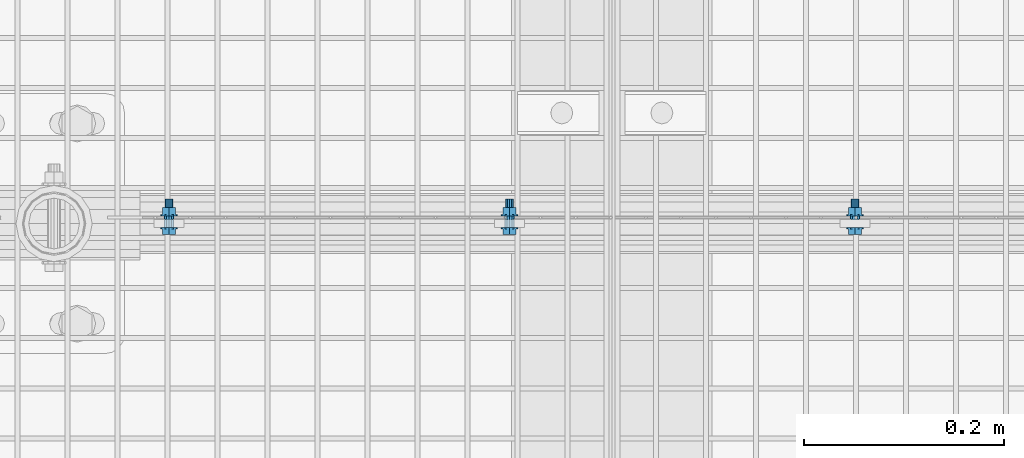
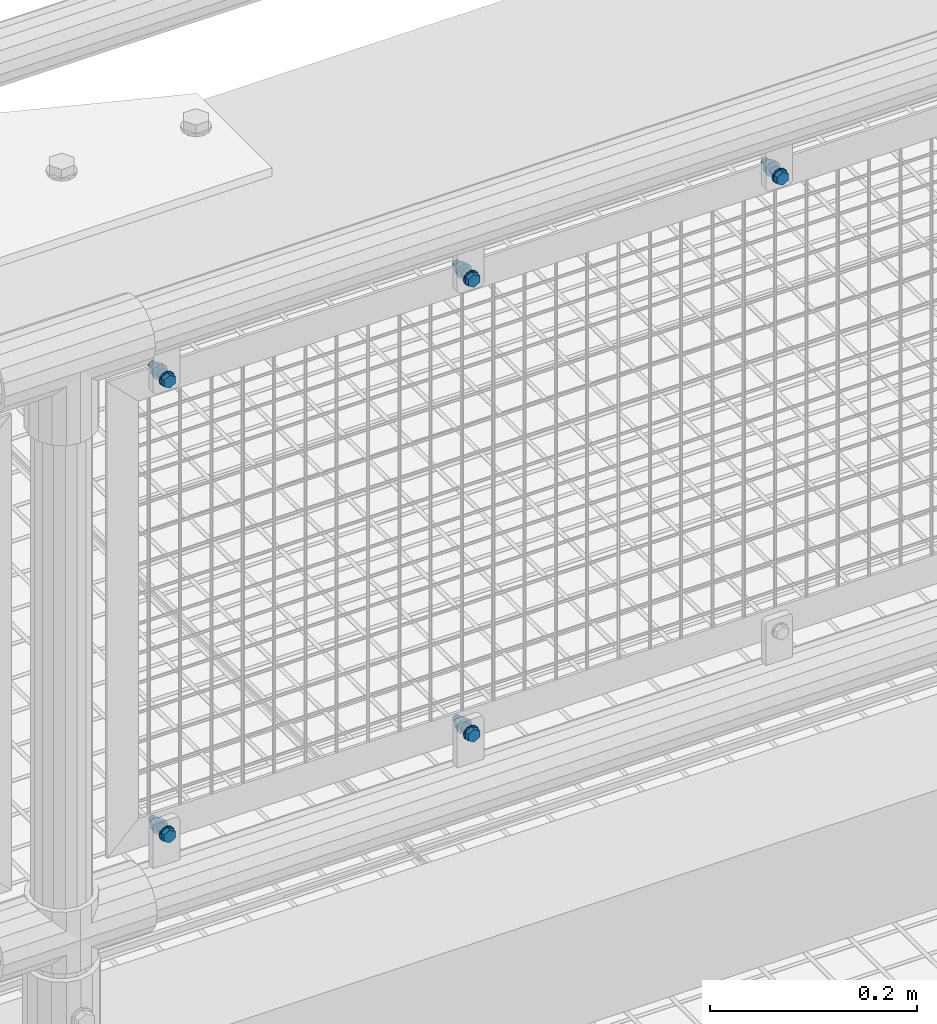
# One storey, part 86 of 1530: 5 mechanical fasteners.
"""IFC2X3 building model written with IfcOpenShell, lengths in millimetres."""

from ifc_helpers import new_model, si_unit, frame, origin_with_axes, place, context, subcontext, project, spatial, faceted_brep, source, transform, mapped, material, type_object, element, save


model = new_model("IFC2X3")

# Units and contexts
model_context = context("Model", 3, precision=1e-05, world=origin_with_axes())
body_context = subcontext(model_context, "Body", "Model", "MODEL_VIEW")
ifc_project = project(units=[si_unit("LENGTHUNIT", "METRE", prefix="MILLI"), si_unit("AREAUNIT", "SQUARE_METRE"), si_unit("VOLUMEUNIT", "CUBIC_METRE"), si_unit("MASSUNIT", "GRAM", prefix="KILO"), si_unit("TIMEUNIT", "SECOND"), si_unit("PLANEANGLEUNIT", "RADIAN"), si_unit("SOLIDANGLEUNIT", "STERADIAN"), si_unit("THERMODYNAMICTEMPERATUREUNIT", "DEGREE_CELSIUS"), si_unit("LUMINOUSINTENSITYUNIT", "LUMEN")], contexts=[model_context])

# Site, building, storey
site_placement = place(None, origin_with_axes())
site = spatial("IfcSite", under=ifc_project, at=site_placement, Name="Brattvåg", CompositionType="ELEMENT")
building_placement = place(site_placement, origin_with_axes())
building = spatial("IfcBuilding", under=site, at=building_placement, Name="Undefined", CompositionType="ELEMENT")
storey_placement = place(building_placement, origin_with_axes())
storey = spatial("IfcBuildingStorey", under=building, at=storey_placement, Name="Undefined", CompositionType="ELEMENT", Elevation=0.0)

# Mechanical fasteners
ifc_material = material(Name="8")
mechanical_fastener_type = type_object("IfcMechanicalFastenerType", Name="Bolt assembly")
shared_shape_1 = source(origin_with_axes(), body_context, "Body", "Brep", [
    faceted_brep([(7.50555349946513, -6.90000021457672, 0.0), (3.75277674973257, -6.90000021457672, 6.5), (-3.75277674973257, -6.90000021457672, 6.5), (-7.50555349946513, -6.90000021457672, 9.19165206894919e-16), (-3.75277674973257, -6.90000021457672, -6.5), (3.75277674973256, -6.90000021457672, -6.5), (3.75277674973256, -1.60000002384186, -6.5), (-3.75277674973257, -1.60000002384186, -6.5), (-7.50555349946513, -1.60000002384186, 9.19165206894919e-16), (-3.75277674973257, -1.60000002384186, 6.5), (3.75277674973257, -1.60000002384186, 6.5), (7.50555349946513, -1.60000002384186, 0.0), (4.0, -1.60000002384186, 0.0), (3.46410161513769, -1.60000002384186, 2.00000000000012), (1.99999999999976, -1.60000002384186, 3.46410161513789), (-4.14534392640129e-13, -1.60000002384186, 4.0), (-2.00000000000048, -1.60000002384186, 3.46410161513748), (-3.4641016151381, -1.60000002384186, 1.9999999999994), (-4.0, -1.60000002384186, -8.29068785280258e-13), (-3.46410161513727, -1.60000002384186, -2.00000000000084), (-1.99999999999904, -1.60000002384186, -3.46410161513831), (1.23916228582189e-12, -1.60000002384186, -4.0), (2.00000000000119, -1.60000002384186, -3.46410161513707), (3.46410161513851, -1.60000002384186, -1.99999999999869), (3.46410161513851, 28.3999999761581, -1.99999999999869), (2.00000000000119, 28.3999999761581, -3.46410161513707), (1.23916228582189e-12, 28.3999999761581, -4.0), (-1.99999999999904, 28.3999999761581, -3.46410161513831), (-3.46410161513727, 28.3999999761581, -2.00000000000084), (-4.0, 28.3999999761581, -8.29068785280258e-13), (-3.4641016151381, 28.3999999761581, 1.9999999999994), (-2.00000000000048, 28.3999999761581, 3.46410161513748), (-4.14534392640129e-13, 28.3999999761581, 4.0), (1.99999999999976, 28.3999999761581, 3.46410161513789), (3.46410161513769, 28.3999999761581, 2.00000000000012), (4.0, 28.3999999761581, 0.0), (8.5, -1.60000002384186, 0.0), (7.36121593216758, -1.60000002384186, 4.25000000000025), (4.24999999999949, -1.60000002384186, 7.36121593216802), (-8.80885584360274e-13, -1.60000002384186, 8.5), (-4.25000000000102, -1.60000002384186, 7.36121593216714), (-7.36121593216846, -1.60000002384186, 4.24999999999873), (-8.5, -1.60000002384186, -1.76177116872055e-12), (-7.3612159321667, -1.60000002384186, -4.25000000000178), (-4.24999999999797, -1.60000002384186, -7.3612159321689), (2.63321985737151e-12, -1.60000002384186, -8.5), (4.25000000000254, -1.60000002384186, -7.36121593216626), (7.36121593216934, -1.60000002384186, -4.24999999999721), (7.36121593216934, 0.0, -4.24999999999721), (4.25000000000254, 0.0, -7.36121593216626), (2.63321985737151e-12, 0.0, -8.5), (-4.24999999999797, 0.0, -7.3612159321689), (-7.3612159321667, 0.0, -4.25000000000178), (-8.5, 0.0, -1.76177116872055e-12), (-7.36121593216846, 0.0, 4.24999999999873), (-4.25000000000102, 0.0, 7.36121593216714), (-8.80885584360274e-13, 0.0, 8.5), (4.24999999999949, 0.0, 7.36121593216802), (7.36121593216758, 0.0, 4.25000000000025), (8.5, 0.0, 0.0), (8.5, 11.5015258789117, 0.0), (7.36121593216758, 11.5015258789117, 4.25000000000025), (4.24999999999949, 11.5015258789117, 7.36121593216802), (-8.80885584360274e-13, 11.5015258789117, 8.5), (-4.25000000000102, 11.5015258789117, 7.36121593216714), (-7.36121593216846, 11.5015258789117, 4.24999999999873), (-8.5, 11.5015258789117, -1.76177116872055e-12), (-7.3612159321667, 11.5015258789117, -4.25000000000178), (-4.24999999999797, 11.5015258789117, -7.3612159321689), (2.63321985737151e-12, 11.5015258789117, -8.5), (4.25000000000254, 11.5015258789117, -7.36121593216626), (7.36121593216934, 11.5015258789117, -4.24999999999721), (7.36121593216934, 13.1015259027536, -4.24999999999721), (4.25000000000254, 13.1015259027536, -7.36121593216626), (2.63321985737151e-12, 13.1015259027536, -8.5), (-4.24999999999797, 13.1015259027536, -7.3612159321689), (-7.3612159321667, 13.1015259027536, -4.25000000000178), (-8.5, 13.1015259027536, -1.76177116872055e-12), (-7.36121593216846, 13.1015259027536, 4.24999999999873), (-4.25000000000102, 13.1015259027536, 7.36121593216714), (-8.80885584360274e-13, 13.1015259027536, 8.5), (4.24999999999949, 13.1015259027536, 7.36121593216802), (7.36121593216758, 13.1015259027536, 4.25000000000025), (8.5, 13.1015259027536, 0.0), (7.50555349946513, 13.1015259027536, 0.0), (3.75277674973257, 13.1015259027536, 6.5), (-3.75277674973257, 13.1015259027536, 6.5), (-7.50555349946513, 13.1015259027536, 9.19165206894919e-16), (-3.75277674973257, 13.1015259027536, -6.5), (3.75277674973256, 13.1015259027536, -6.5), (3.75277674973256, 19.9015260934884, -6.5), (-3.75277674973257, 19.9015260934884, -6.5), (-7.50555349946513, 19.9015260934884, 9.19165206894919e-16), (-3.75277674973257, 19.9015260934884, 6.5), (3.75277674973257, 19.9015260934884, 6.5), (7.50555349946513, 19.9015260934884, 0.0)], [[[0, 1, 2, 3, 4, 5]], [[6, 7, 8, 9, 10, 11]], [[0, 11, 10, 1]], [[1, 10, 9, 2]], [[2, 9, 8, 3]], [[3, 8, 7, 4]], [[4, 7, 6, 5]], [[5, 6, 11, 0]], [[12, 13, 14, 15, 16, 17, 18, 19, 20, 21, 22, 23]], [[24, 25, 26, 27, 28, 29, 30, 31, 32, 33, 34, 35]], [[12, 35, 34, 13]], [[13, 34, 33, 14]], [[14, 33, 32, 15]], [[15, 32, 31, 16]], [[16, 31, 30, 17]], [[17, 30, 29, 18]], [[18, 29, 28, 19]], [[19, 28, 27, 20]], [[20, 27, 26, 21]], [[21, 26, 25, 22]], [[22, 25, 24, 23]], [[23, 24, 35, 12]], [[36, 37, 38, 39, 40, 41, 42, 43, 44, 45, 46, 47]], [[48, 49, 50, 51, 52, 53, 54, 55, 56, 57, 58, 59]], [[36, 59, 58, 37]], [[37, 58, 57, 38]], [[38, 57, 56, 39]], [[39, 56, 55, 40]], [[40, 55, 54, 41]], [[41, 54, 53, 42]], [[42, 53, 52, 43]], [[43, 52, 51, 44]], [[44, 51, 50, 45]], [[45, 50, 49, 46]], [[46, 49, 48, 47]], [[47, 48, 59, 36]], [[60, 61, 62, 63, 64, 65, 66, 67, 68, 69, 70, 71]], [[72, 73, 74, 75, 76, 77, 78, 79, 80, 81, 82, 83]], [[60, 83, 82, 61]], [[61, 82, 81, 62]], [[62, 81, 80, 63]], [[63, 80, 79, 64]], [[64, 79, 78, 65]], [[65, 78, 77, 66]], [[66, 77, 76, 67]], [[67, 76, 75, 68]], [[68, 75, 74, 69]], [[69, 74, 73, 70]], [[70, 73, 72, 71]], [[71, 72, 83, 60]], [[84, 85, 86, 87, 88, 89]], [[90, 91, 92, 93, 94, 95]], [[84, 95, 94, 85]], [[85, 94, 93, 86]], [[86, 93, 92, 87]], [[87, 92, 91, 88]], [[88, 91, 90, 89]], [[89, 90, 95, 84]]]),
    faceted_brep([(5.0, 0.1, 0.0), (4.33012701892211, 0.1, 2.50000000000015), (2.4999999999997, 0.1, 4.33012701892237), (-5.18167990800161e-13, 0.1, 5.0), (-2.5000000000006, 0.1, 4.33012701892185), (-4.33012701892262, 0.1, 2.49999999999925), (-5.0, 0.1, -1.03633598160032e-12), (-4.33012701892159, 0.1, -2.50000000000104), (-2.49999999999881, 0.1, -4.33012701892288), (1.54895285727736e-12, 0.1, -5.0), (2.50000000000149, 0.1, -4.33012701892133), (4.33012701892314, 0.1, -2.49999999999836), (4.33012701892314, 8.1, -2.49999999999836), (2.50000000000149, 8.1, -4.33012701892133), (1.54895285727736e-12, 8.1, -5.0), (-2.49999999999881, 8.1, -4.33012701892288), (-4.33012701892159, 8.1, -2.50000000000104), (-5.0, 8.1, -1.03633598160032e-12), (-4.33012701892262, 8.1, 2.49999999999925), (-2.5000000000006, 8.1, 4.33012701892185), (-5.18167990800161e-13, 8.1, 5.0), (2.4999999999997, 8.1, 4.33012701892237), (4.33012701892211, 8.1, 2.50000000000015), (5.0, 8.1, 0.0), (5.0, 8.40152587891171, 0.0), (4.33012701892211, 8.40152587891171, 2.50000000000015), (2.4999999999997, 8.40152587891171, 4.33012701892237), (-5.18167990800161e-13, 8.40152587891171, 5.0), (-2.5000000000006, 8.40152587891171, 4.33012701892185), (-4.33012701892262, 8.40152587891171, 2.49999999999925), (-5.0, 8.40152587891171, -1.03633598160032e-12), (-4.33012701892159, 8.40152587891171, -2.50000000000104), (-2.49999999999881, 8.40152587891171, -4.33012701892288), (1.54895285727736e-12, 8.40152587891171, -5.0), (2.50000000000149, 8.40152587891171, -4.33012701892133), (4.33012701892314, 8.40152587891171, -2.49999999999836), (4.33012701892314, 11.5015258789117, -2.49999999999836), (2.50000000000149, 11.5015258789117, -4.33012701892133), (1.54895285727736e-12, 11.5015258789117, -5.0), (-2.49999999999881, 11.5015258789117, -4.33012701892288), (-4.33012701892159, 11.5015258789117, -2.50000000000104), (-5.0, 11.5015258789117, -1.03633598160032e-12), (-4.33012701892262, 11.5015258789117, 2.49999999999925), (-2.5000000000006, 11.5015258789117, 4.33012701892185), (-5.18167990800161e-13, 11.5015258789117, 5.0), (2.4999999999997, 11.5015258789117, 4.33012701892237), (4.33012701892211, 11.5015258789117, 2.50000000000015), (5.0, 11.5015258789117, 0.0)], [[[0, 1, 2, 3, 4, 5, 6, 7, 8, 9, 10, 11]], [[12, 13, 14, 15, 16, 17, 18, 19, 20, 21, 22, 23]], [[0, 23, 22, 1]], [[1, 22, 21, 2]], [[2, 21, 20, 3]], [[3, 20, 19, 4]], [[4, 19, 18, 5]], [[5, 18, 17, 6]], [[6, 17, 16, 7]], [[7, 16, 15, 8]], [[8, 15, 14, 9]], [[9, 14, 13, 10]], [[10, 13, 12, 11]], [[11, 12, 23, 0]], [[24, 25, 26, 27, 28, 29, 30, 31, 32, 33, 34, 35]], [[36, 37, 38, 39, 40, 41, 42, 43, 44, 45, 46, 47]], [[24, 47, 46, 25]], [[25, 46, 45, 26]], [[26, 45, 44, 27]], [[27, 44, 43, 28]], [[28, 43, 42, 29]], [[29, 42, 41, 30]], [[30, 41, 40, 31]], [[31, 40, 39, 32]], [[32, 39, 38, 33]], [[33, 38, 37, 34]], [[34, 37, 36, 35]], [[35, 36, 47, 24]]]),
])
for number, where, z_axis, x_axis, name in (
    (1, (7135.85095214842, 7660.49950027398, 889.680069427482), (-1.0, 1.99999855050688e-09, 0.0), (0.0, 0.0, 1.0), "Bolt assembly"),
    (2, (7475.85110473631, 7660.49950027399, 889.680069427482), (-1.0, 1.99999855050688e-09, 0.0), (0.0, 0.0, 1.0), "Bolt assembly"),
    (3, (7820.8504180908, 7660.49950027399, 889.680069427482), (-1.0, 1.99999855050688e-09, 0.0), (0.0, 0.0, 1.0), "Bolt assembly"),
):
    element("IfcMechanicalFastener", number, at=place(storey_placement, frame(where, z_axis=z_axis, x_axis=x_axis)), inside=storey, type_object=mechanical_fastener_type, material=ifc_material, Name=name, NominalDiameter=8.0, NominalLength=30.0, context=body_context, shape_type="MappedRepresentation", body=[
        mapped(shared_shape_1, transform((0.0, 0.0, 0.0))),
    ])
shared_shape_2 = source(origin_with_axes(), body_context, "Body", "Brep", [
    faceted_brep([(7.50555349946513, -6.899000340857, 0.0), (3.75277674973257, -6.899000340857, 6.5), (-3.75277674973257, -6.899000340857, 6.5), (-7.50555349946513, -6.899000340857, 9.19165206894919e-16), (-3.75277674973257, -6.899000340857, -6.5), (3.75277674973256, -6.899000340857, -6.5), (3.75277674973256, -1.59900015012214, -6.5), (-3.75277674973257, -1.59900015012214, -6.5), (-7.50555349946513, -1.59900015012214, 9.19165206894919e-16), (-3.75277674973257, -1.59900015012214, 6.5), (3.75277674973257, -1.59900015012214, 6.5), (7.50555349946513, -1.59900015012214, 0.0), (4.0, -1.59900015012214, 0.0), (3.46410161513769, -1.59900015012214, 2.00000000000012), (1.99999999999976, -1.59900015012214, 3.46410161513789), (-4.14534392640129e-13, -1.59900015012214, 4.0), (-2.00000000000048, -1.59900015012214, 3.46410161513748), (-3.4641016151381, -1.59900015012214, 1.9999999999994), (-4.0, -1.59900015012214, -8.29068785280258e-13), (-3.46410161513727, -1.59900015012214, -2.00000000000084), (-1.99999999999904, -1.59900015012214, -3.46410161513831), (1.23916228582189e-12, -1.59900015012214, -4.0), (2.00000000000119, -1.59900015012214, -3.46410161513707), (3.46410161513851, -1.59900015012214, -1.99999999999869), (3.46410161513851, 28.4009998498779, -1.99999999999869), (2.00000000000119, 28.4009998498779, -3.46410161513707), (1.23916228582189e-12, 28.4009998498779, -4.0), (-1.99999999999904, 28.4009998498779, -3.46410161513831), (-3.46410161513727, 28.4009998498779, -2.00000000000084), (-4.0, 28.4009998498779, -8.29068785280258e-13), (-3.4641016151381, 28.4009998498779, 1.9999999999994), (-2.00000000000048, 28.4009998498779, 3.46410161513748), (-4.14534392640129e-13, 28.4009998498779, 4.0), (1.99999999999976, 28.4009998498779, 3.46410161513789), (3.46410161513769, 28.4009998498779, 2.00000000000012), (4.0, 28.4009998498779, 0.0), (8.5, -1.59900015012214, 0.0), (7.36121593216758, -1.59900015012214, 4.25000000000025), (4.24999999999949, -1.59900015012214, 7.36121593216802), (-8.80885584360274e-13, -1.59900015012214, 8.5), (-4.25000000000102, -1.59900015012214, 7.36121593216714), (-7.36121593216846, -1.59900015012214, 4.24999999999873), (-8.5, -1.59900015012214, -1.76177116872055e-12), (-7.3612159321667, -1.59900015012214, -4.25000000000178), (-4.24999999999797, -1.59900015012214, -7.3612159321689), (2.63321985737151e-12, -1.59900015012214, -8.5), (4.25000000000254, -1.59900015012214, -7.36121593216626), (7.36121593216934, -1.59900015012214, -4.24999999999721), (7.36121593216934, 0.000999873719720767, -4.24999999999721), (4.25000000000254, 0.000999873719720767, -7.36121593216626), (2.63321985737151e-12, 0.000999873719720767, -8.5), (-4.24999999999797, 0.000999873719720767, -7.3612159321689), (-7.3612159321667, 0.000999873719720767, -4.25000000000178), (-8.5, 0.000999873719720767, -1.76177116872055e-12), (-7.36121593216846, 0.000999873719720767, 4.24999999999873), (-4.25000000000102, 0.000999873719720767, 7.36121593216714), (-8.80885584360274e-13, 0.000999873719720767, 8.5), (4.24999999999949, 0.000999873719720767, 7.36121593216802), (7.36121593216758, 0.000999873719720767, 4.25000000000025), (8.5, 0.000999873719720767, 0.0), (8.5, 11.5044159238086, 0.0), (7.36121593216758, 11.5044159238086, 4.25000000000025), (4.24999999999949, 11.5044159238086, 7.36121593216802), (-8.80885584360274e-13, 11.5044159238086, 8.5), (-4.25000000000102, 11.5044159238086, 7.36121593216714), (-7.36121593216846, 11.5044159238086, 4.24999999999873), (-8.5, 11.5044159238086, -1.76177116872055e-12), (-7.3612159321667, 11.5044159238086, -4.25000000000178), (-4.24999999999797, 11.5044159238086, -7.3612159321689), (2.63321985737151e-12, 11.5044159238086, -8.5), (4.25000000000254, 11.5044159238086, -7.36121593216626), (7.36121593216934, 11.5044159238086, -4.24999999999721), (7.36121593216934, 13.1044159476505, -4.24999999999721), (4.25000000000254, 13.1044159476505, -7.36121593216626), (2.63321985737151e-12, 13.1044159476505, -8.5), (-4.24999999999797, 13.1044159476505, -7.3612159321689), (-7.3612159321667, 13.1044159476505, -4.25000000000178), (-8.5, 13.1044159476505, -1.76177116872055e-12), (-7.36121593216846, 13.1044159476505, 4.24999999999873), (-4.25000000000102, 13.1044159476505, 7.36121593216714), (-8.80885584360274e-13, 13.1044159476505, 8.5), (4.24999999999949, 13.1044159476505, 7.36121593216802), (7.36121593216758, 13.1044159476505, 4.25000000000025), (8.5, 13.1044159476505, 0.0), (7.50555349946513, 13.1044159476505, 0.0), (3.75277674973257, 13.1044159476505, 6.5), (-3.75277674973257, 13.1044159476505, 6.5), (-7.50555349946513, 13.1044159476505, 9.19165206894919e-16), (-3.75277674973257, 13.1044159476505, -6.5), (3.75277674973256, 13.1044159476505, -6.5), (3.75277674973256, 19.9044161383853, -6.5), (-3.75277674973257, 19.9044161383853, -6.5), (-7.50555349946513, 19.9044161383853, 9.19165206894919e-16), (-3.75277674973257, 19.9044161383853, 6.5), (3.75277674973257, 19.9044161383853, 6.5), (7.50555349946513, 19.9044161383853, 0.0)], [[[0, 1, 2, 3, 4, 5]], [[6, 7, 8, 9, 10, 11]], [[0, 11, 10, 1]], [[1, 10, 9, 2]], [[2, 9, 8, 3]], [[3, 8, 7, 4]], [[4, 7, 6, 5]], [[5, 6, 11, 0]], [[12, 13, 14, 15, 16, 17, 18, 19, 20, 21, 22, 23]], [[24, 25, 26, 27, 28, 29, 30, 31, 32, 33, 34, 35]], [[12, 35, 34, 13]], [[13, 34, 33, 14]], [[14, 33, 32, 15]], [[15, 32, 31, 16]], [[16, 31, 30, 17]], [[17, 30, 29, 18]], [[18, 29, 28, 19]], [[19, 28, 27, 20]], [[20, 27, 26, 21]], [[21, 26, 25, 22]], [[22, 25, 24, 23]], [[23, 24, 35, 12]], [[36, 37, 38, 39, 40, 41, 42, 43, 44, 45, 46, 47]], [[48, 49, 50, 51, 52, 53, 54, 55, 56, 57, 58, 59]], [[36, 59, 58, 37]], [[37, 58, 57, 38]], [[38, 57, 56, 39]], [[39, 56, 55, 40]], [[40, 55, 54, 41]], [[41, 54, 53, 42]], [[42, 53, 52, 43]], [[43, 52, 51, 44]], [[44, 51, 50, 45]], [[45, 50, 49, 46]], [[46, 49, 48, 47]], [[47, 48, 59, 36]], [[60, 61, 62, 63, 64, 65, 66, 67, 68, 69, 70, 71]], [[72, 73, 74, 75, 76, 77, 78, 79, 80, 81, 82, 83]], [[60, 83, 82, 61]], [[61, 82, 81, 62]], [[62, 81, 80, 63]], [[63, 80, 79, 64]], [[64, 79, 78, 65]], [[65, 78, 77, 66]], [[66, 77, 76, 67]], [[67, 76, 75, 68]], [[68, 75, 74, 69]], [[69, 74, 73, 70]], [[70, 73, 72, 71]], [[71, 72, 83, 60]], [[84, 85, 86, 87, 88, 89]], [[90, 91, 92, 93, 94, 95]], [[84, 95, 94, 85]], [[85, 94, 93, 86]], [[86, 93, 92, 87]], [[87, 92, 91, 88]], [[88, 91, 90, 89]], [[89, 90, 95, 84]]]),
    faceted_brep([(5.0, 0.100999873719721, 0.0), (4.33012701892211, 0.100999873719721, 2.50000000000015), (2.4999999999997, 0.100999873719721, 4.33012701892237), (-5.18167990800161e-13, 0.100999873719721, 5.0), (-2.5000000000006, 0.100999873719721, 4.33012701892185), (-4.33012701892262, 0.100999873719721, 2.49999999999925), (-5.0, 0.100999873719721, -1.03633598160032e-12), (-4.33012701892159, 0.100999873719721, -2.50000000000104), (-2.49999999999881, 0.100999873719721, -4.33012701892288), (1.54895285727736e-12, 0.100999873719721, -5.0), (2.50000000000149, 0.100999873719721, -4.33012701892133), (4.33012701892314, 0.100999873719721, -2.49999999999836), (4.33012701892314, 8.10099988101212, -2.49999999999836), (2.50000000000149, 8.10099988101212, -4.33012701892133), (1.54895285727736e-12, 8.10099988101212, -5.0), (-2.49999999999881, 8.10099988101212, -4.33012701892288), (-4.33012701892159, 8.10099988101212, -2.50000000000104), (-5.0, 8.10099988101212, -1.03633598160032e-12), (-4.33012701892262, 8.10099988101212, 2.49999999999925), (-2.5000000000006, 8.10099988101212, 4.33012701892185), (-5.18167990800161e-13, 8.10099988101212, 5.0), (2.4999999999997, 8.10099988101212, 4.33012701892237), (4.33012701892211, 8.10099988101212, 2.50000000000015), (5.0, 8.10099988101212, 0.0), (5.0, 8.40441592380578, 0.0), (4.33012701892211, 8.40441592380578, 2.50000000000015), (2.4999999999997, 8.40441592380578, 4.33012701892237), (-5.18167990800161e-13, 8.40441592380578, 5.0), (-2.5000000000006, 8.40441592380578, 4.33012701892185), (-4.33012701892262, 8.40441592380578, 2.49999999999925), (-5.0, 8.40441592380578, -1.03633598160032e-12), (-4.33012701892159, 8.40441592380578, -2.50000000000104), (-2.49999999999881, 8.40441592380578, -4.33012701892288), (1.54895285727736e-12, 8.40441592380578, -5.0), (2.50000000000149, 8.40441592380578, -4.33012701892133), (4.33012701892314, 8.40441592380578, -2.49999999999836), (4.33012701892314, 11.5044159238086, -2.49999999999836), (2.50000000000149, 11.5044159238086, -4.33012701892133), (1.54895285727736e-12, 11.5044159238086, -5.0), (-2.49999999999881, 11.5044159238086, -4.33012701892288), (-4.33012701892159, 11.5044159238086, -2.50000000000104), (-5.0, 11.5044159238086, -1.03633598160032e-12), (-4.33012701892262, 11.5044159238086, 2.49999999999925), (-2.5000000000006, 11.5044159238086, 4.33012701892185), (-5.18167990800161e-13, 11.5044159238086, 5.0), (2.4999999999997, 11.5044159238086, 4.33012701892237), (4.33012701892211, 11.5044159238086, 2.50000000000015), (5.0, 11.5044159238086, 0.0)], [[[0, 1, 2, 3, 4, 5, 6, 7, 8, 9, 10, 11]], [[12, 13, 14, 15, 16, 17, 18, 19, 20, 21, 22, 23]], [[0, 23, 22, 1]], [[1, 22, 21, 2]], [[2, 21, 20, 3]], [[3, 20, 19, 4]], [[4, 19, 18, 5]], [[5, 18, 17, 6]], [[6, 17, 16, 7]], [[7, 16, 15, 8]], [[8, 15, 14, 9]], [[9, 14, 13, 10]], [[10, 13, 12, 11]], [[11, 12, 23, 0]], [[24, 25, 26, 27, 28, 29, 30, 31, 32, 33, 34, 35]], [[36, 37, 38, 39, 40, 41, 42, 43, 44, 45, 46, 47]], [[24, 47, 46, 25]], [[25, 46, 45, 26]], [[26, 45, 44, 27]], [[27, 44, 43, 28]], [[28, 43, 42, 29]], [[29, 42, 41, 30]], [[30, 41, 40, 31]], [[31, 40, 39, 32]], [[32, 39, 38, 33]], [[33, 38, 37, 34]], [[34, 37, 36, 35]], [[35, 36, 47, 24]]]),
])
mechanical_fastener_1_placement = place(storey_placement, frame((7135.85060882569, 7660.49843978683, 352.299672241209), z_axis=(-1.0, 1.99999855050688e-09, 0.0), x_axis=(0.0, 0.0, 1.0)))
element("IfcMechanicalFastener", 4, at=mechanical_fastener_1_placement, inside=storey, type_object=mechanical_fastener_type, material=ifc_material, Name="Bolt assembly", NominalDiameter=8.0, NominalLength=30.0, context=body_context, shape_type="MappedRepresentation", body=[
    mapped(shared_shape_2, transform((0.0, 0.0, 0.0))),
])
shared_shape_3 = source(origin_with_axes(), body_context, "Body", "Brep", [
    faceted_brep([(7.50555349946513, -6.899000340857, 0.0), (3.75277674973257, -6.899000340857, 6.5), (-3.75277674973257, -6.899000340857, 6.5), (-7.50555349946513, -6.899000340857, 9.19165206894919e-16), (-3.75277674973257, -6.899000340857, -6.5), (3.75277674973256, -6.899000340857, -6.5), (3.75277674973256, -1.59900015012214, -6.5), (-3.75277674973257, -1.59900015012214, -6.5), (-7.50555349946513, -1.59900015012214, 9.19165206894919e-16), (-3.75277674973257, -1.59900015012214, 6.5), (3.75277674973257, -1.59900015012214, 6.5), (7.50555349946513, -1.59900015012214, 0.0), (4.0, -1.59900015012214, 0.0), (3.46410161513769, -1.59900015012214, 2.00000000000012), (1.99999999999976, -1.59900015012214, 3.46410161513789), (-4.14534392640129e-13, -1.59900015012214, 4.0), (-2.00000000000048, -1.59900015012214, 3.46410161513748), (-3.4641016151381, -1.59900015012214, 1.9999999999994), (-4.0, -1.59900015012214, -8.29068785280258e-13), (-3.46410161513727, -1.59900015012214, -2.00000000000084), (-1.99999999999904, -1.59900015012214, -3.46410161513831), (1.23916228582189e-12, -1.59900015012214, -4.0), (2.00000000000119, -1.59900015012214, -3.46410161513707), (3.46410161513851, -1.59900015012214, -1.99999999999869), (3.46410161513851, 28.4009998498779, -1.99999999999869), (2.00000000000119, 28.4009998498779, -3.46410161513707), (1.23916228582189e-12, 28.4009998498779, -4.0), (-1.99999999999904, 28.4009998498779, -3.46410161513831), (-3.46410161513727, 28.4009998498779, -2.00000000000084), (-4.0, 28.4009998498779, -8.29068785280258e-13), (-3.4641016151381, 28.4009998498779, 1.9999999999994), (-2.00000000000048, 28.4009998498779, 3.46410161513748), (-4.14534392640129e-13, 28.4009998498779, 4.0), (1.99999999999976, 28.4009998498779, 3.46410161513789), (3.46410161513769, 28.4009998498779, 2.00000000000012), (4.0, 28.4009998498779, 0.0), (8.5, -1.59900015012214, 0.0), (7.36121593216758, -1.59900015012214, 4.25000000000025), (4.24999999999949, -1.59900015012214, 7.36121593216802), (-8.80885584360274e-13, -1.59900015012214, 8.5), (-4.25000000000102, -1.59900015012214, 7.36121593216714), (-7.36121593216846, -1.59900015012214, 4.24999999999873), (-8.5, -1.59900015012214, -1.76177116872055e-12), (-7.3612159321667, -1.59900015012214, -4.25000000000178), (-4.24999999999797, -1.59900015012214, -7.3612159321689), (2.63321985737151e-12, -1.59900015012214, -8.5), (4.25000000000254, -1.59900015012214, -7.36121593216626), (7.36121593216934, -1.59900015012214, -4.24999999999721), (7.36121593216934, 0.000999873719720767, -4.24999999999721), (4.25000000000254, 0.000999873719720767, -7.36121593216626), (2.63321985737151e-12, 0.000999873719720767, -8.5), (-4.24999999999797, 0.000999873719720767, -7.3612159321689), (-7.3612159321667, 0.000999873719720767, -4.25000000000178), (-8.5, 0.000999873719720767, -1.76177116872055e-12), (-7.36121593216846, 0.000999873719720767, 4.24999999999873), (-4.25000000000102, 0.000999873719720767, 7.36121593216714), (-8.80885584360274e-13, 0.000999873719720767, 8.5), (4.24999999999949, 0.000999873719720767, 7.36121593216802), (7.36121593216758, 0.000999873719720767, 4.25000000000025), (8.5, 0.000999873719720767, 0.0), (8.5, 11.5039814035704, 0.0), (7.36121593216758, 11.5039814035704, 4.25000000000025), (4.24999999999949, 11.5039814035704, 7.36121593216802), (-8.80885584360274e-13, 11.5039814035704, 8.5), (-4.25000000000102, 11.5039814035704, 7.36121593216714), (-7.36121593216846, 11.5039814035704, 4.24999999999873), (-8.5, 11.5039814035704, -1.76177116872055e-12), (-7.3612159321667, 11.5039814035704, -4.25000000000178), (-4.24999999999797, 11.5039814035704, -7.3612159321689), (2.63321985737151e-12, 11.5039814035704, -8.5), (4.25000000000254, 11.5039814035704, -7.36121593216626), (7.36121593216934, 11.5039814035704, -4.24999999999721), (7.36121593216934, 13.1039814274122, -4.24999999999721), (4.25000000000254, 13.1039814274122, -7.36121593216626), (2.63321985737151e-12, 13.1039814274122, -8.5), (-4.24999999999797, 13.1039814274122, -7.3612159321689), (-7.3612159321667, 13.1039814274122, -4.25000000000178), (-8.5, 13.1039814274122, -1.76177116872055e-12), (-7.36121593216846, 13.1039814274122, 4.24999999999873), (-4.25000000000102, 13.1039814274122, 7.36121593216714), (-8.80885584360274e-13, 13.1039814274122, 8.5), (4.24999999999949, 13.1039814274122, 7.36121593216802), (7.36121593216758, 13.1039814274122, 4.25000000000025), (8.5, 13.1039814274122, 0.0), (7.50555349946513, 13.1039814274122, 0.0), (3.75277674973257, 13.1039814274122, 6.5), (-3.75277674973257, 13.1039814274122, 6.5), (-7.50555349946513, 13.1039814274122, 9.19165206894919e-16), (-3.75277674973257, 13.1039814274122, -6.5), (3.75277674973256, 13.1039814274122, -6.5), (3.75277674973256, 19.9039816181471, -6.5), (-3.75277674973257, 19.9039816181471, -6.5), (-7.50555349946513, 19.9039816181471, 9.19165206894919e-16), (-3.75277674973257, 19.9039816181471, 6.5), (3.75277674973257, 19.9039816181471, 6.5), (7.50555349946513, 19.9039816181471, 0.0)], [[[0, 1, 2, 3, 4, 5]], [[6, 7, 8, 9, 10, 11]], [[0, 11, 10, 1]], [[1, 10, 9, 2]], [[2, 9, 8, 3]], [[3, 8, 7, 4]], [[4, 7, 6, 5]], [[5, 6, 11, 0]], [[12, 13, 14, 15, 16, 17, 18, 19, 20, 21, 22, 23]], [[24, 25, 26, 27, 28, 29, 30, 31, 32, 33, 34, 35]], [[12, 35, 34, 13]], [[13, 34, 33, 14]], [[14, 33, 32, 15]], [[15, 32, 31, 16]], [[16, 31, 30, 17]], [[17, 30, 29, 18]], [[18, 29, 28, 19]], [[19, 28, 27, 20]], [[20, 27, 26, 21]], [[21, 26, 25, 22]], [[22, 25, 24, 23]], [[23, 24, 35, 12]], [[36, 37, 38, 39, 40, 41, 42, 43, 44, 45, 46, 47]], [[48, 49, 50, 51, 52, 53, 54, 55, 56, 57, 58, 59]], [[36, 59, 58, 37]], [[37, 58, 57, 38]], [[38, 57, 56, 39]], [[39, 56, 55, 40]], [[40, 55, 54, 41]], [[41, 54, 53, 42]], [[42, 53, 52, 43]], [[43, 52, 51, 44]], [[44, 51, 50, 45]], [[45, 50, 49, 46]], [[46, 49, 48, 47]], [[47, 48, 59, 36]], [[60, 61, 62, 63, 64, 65, 66, 67, 68, 69, 70, 71]], [[72, 73, 74, 75, 76, 77, 78, 79, 80, 81, 82, 83]], [[60, 83, 82, 61]], [[61, 82, 81, 62]], [[62, 81, 80, 63]], [[63, 80, 79, 64]], [[64, 79, 78, 65]], [[65, 78, 77, 66]], [[66, 77, 76, 67]], [[67, 76, 75, 68]], [[68, 75, 74, 69]], [[69, 74, 73, 70]], [[70, 73, 72, 71]], [[71, 72, 83, 60]], [[84, 85, 86, 87, 88, 89]], [[90, 91, 92, 93, 94, 95]], [[84, 95, 94, 85]], [[85, 94, 93, 86]], [[86, 93, 92, 87]], [[87, 92, 91, 88]], [[88, 91, 90, 89]], [[89, 90, 95, 84]]]),
    faceted_brep([(5.0, 0.100999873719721, 0.0), (4.33012701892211, 0.100999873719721, 2.50000000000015), (2.4999999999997, 0.100999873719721, 4.33012701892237), (-5.18167990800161e-13, 0.100999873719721, 5.0), (-2.5000000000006, 0.100999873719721, 4.33012701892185), (-4.33012701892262, 0.100999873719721, 2.49999999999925), (-5.0, 0.100999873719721, -1.03633598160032e-12), (-4.33012701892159, 0.100999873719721, -2.50000000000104), (-2.49999999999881, 0.100999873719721, -4.33012701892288), (1.54895285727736e-12, 0.100999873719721, -5.0), (2.50000000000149, 0.100999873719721, -4.33012701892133), (4.33012701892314, 0.100999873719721, -2.49999999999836), (4.33012701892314, 8.10099988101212, -2.49999999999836), (2.50000000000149, 8.10099988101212, -4.33012701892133), (1.54895285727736e-12, 8.10099988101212, -5.0), (-2.49999999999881, 8.10099988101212, -4.33012701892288), (-4.33012701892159, 8.10099988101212, -2.50000000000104), (-5.0, 8.10099988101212, -1.03633598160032e-12), (-4.33012701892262, 8.10099988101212, 2.49999999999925), (-2.5000000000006, 8.10099988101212, 4.33012701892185), (-5.18167990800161e-13, 8.10099988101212, 5.0), (2.4999999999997, 8.10099988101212, 4.33012701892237), (4.33012701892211, 8.10099988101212, 2.50000000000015), (5.0, 8.10099988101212, 0.0), (5.0, 8.40398140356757, 0.0), (4.33012701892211, 8.40398140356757, 2.50000000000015), (2.4999999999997, 8.40398140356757, 4.33012701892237), (-5.18167990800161e-13, 8.40398140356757, 5.0), (-2.5000000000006, 8.40398140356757, 4.33012701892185), (-4.33012701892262, 8.40398140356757, 2.49999999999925), (-5.0, 8.40398140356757, -1.03633598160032e-12), (-4.33012701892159, 8.40398140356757, -2.50000000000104), (-2.49999999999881, 8.40398140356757, -4.33012701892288), (1.54895285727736e-12, 8.40398140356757, -5.0), (2.50000000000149, 8.40398140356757, -4.33012701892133), (4.33012701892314, 8.40398140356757, -2.49999999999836), (4.33012701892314, 11.5039814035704, -2.49999999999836), (2.50000000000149, 11.5039814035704, -4.33012701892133), (1.54895285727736e-12, 11.5039814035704, -5.0), (-2.49999999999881, 11.5039814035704, -4.33012701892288), (-4.33012701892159, 11.5039814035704, -2.50000000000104), (-5.0, 11.5039814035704, -1.03633598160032e-12), (-4.33012701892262, 11.5039814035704, 2.49999999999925), (-2.5000000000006, 11.5039814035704, 4.33012701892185), (-5.18167990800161e-13, 11.5039814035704, 5.0), (2.4999999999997, 11.5039814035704, 4.33012701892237), (4.33012701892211, 11.5039814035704, 2.50000000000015), (5.0, 11.5039814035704, 0.0)], [[[0, 1, 2, 3, 4, 5, 6, 7, 8, 9, 10, 11]], [[12, 13, 14, 15, 16, 17, 18, 19, 20, 21, 22, 23]], [[0, 23, 22, 1]], [[1, 22, 21, 2]], [[2, 21, 20, 3]], [[3, 20, 19, 4]], [[4, 19, 18, 5]], [[5, 18, 17, 6]], [[6, 17, 16, 7]], [[7, 16, 15, 8]], [[8, 15, 14, 9]], [[9, 14, 13, 10]], [[10, 13, 12, 11]], [[11, 12, 23, 0]], [[24, 25, 26, 27, 28, 29, 30, 31, 32, 33, 34, 35]], [[36, 37, 38, 39, 40, 41, 42, 43, 44, 45, 46, 47]], [[24, 47, 46, 25]], [[25, 46, 45, 26]], [[26, 45, 44, 27]], [[27, 44, 43, 28]], [[28, 43, 42, 29]], [[29, 42, 41, 30]], [[30, 41, 40, 31]], [[31, 40, 39, 32]], [[32, 39, 38, 33]], [[33, 38, 37, 34]], [[34, 37, 36, 35]], [[35, 36, 47, 24]]]),
])
mechanical_fastener_2_placement = place(storey_placement, frame((7475.85076141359, 7660.49843978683, 352.299672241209), z_axis=(-1.0, 1.99999855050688e-09, 0.0), x_axis=(0.0, 0.0, 1.0)))
element("IfcMechanicalFastener", 5, at=mechanical_fastener_2_placement, inside=storey, type_object=mechanical_fastener_type, material=ifc_material, Name="Bolt assembly", NominalDiameter=8.0, NominalLength=30.0, context=body_context, shape_type="MappedRepresentation", body=[
    mapped(shared_shape_3, transform((0.0, 0.0, 0.0))),
])

save(model, "model.ifc")
